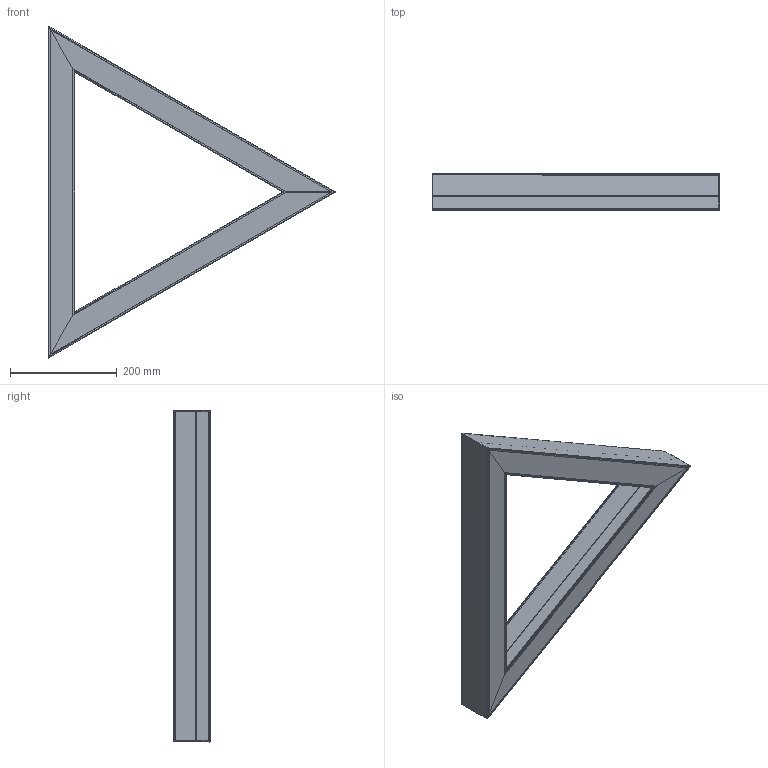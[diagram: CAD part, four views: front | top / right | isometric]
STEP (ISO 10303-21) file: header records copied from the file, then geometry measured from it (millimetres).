
FILE_DESCRIPTION(('STEP AP203'), '1');
FILE_NAME('Ìèêêî Àïèê 30Âò', '', ('UNSPECIFIED'), ('UNSPECIFIED'), 'ASCON STEP Converter 1.6', 'ASCON Math Kernel', '');
FILE_SCHEMA(('CONFIG_CONTROL_DESIGN'));
Length unit declared in the file: millimetre
Assembly tree (3 placements, depth 2):
  (unnamed)
    (unnamed)
    (unnamed)
    (unnamed)
Bounding box: 539.53 x 70 x 623 mm (x, y, z)
Volume: 699389.5 mm3; surface area: 1075694.9 mm2
Topology: 7 solids, 7 shells, 608 faces, 1777 edges, 1184 vertices
Faces by surface type: cylinder 350, plane 256, torus 2
Full cylindrical faces by diameter (mm): 8 x1, 10 x2, 14 x2
Entity records: 20246 total; most frequent: CARTESIAN_POINT 5724, ORIENTED_EDGE 3540, DIRECTION 2318, EDGE_CURVE 1770, VERTEX_POINT 1184, LINE 1066, VECTOR 1066, AXIS2_PLACEMENT_3D 626
